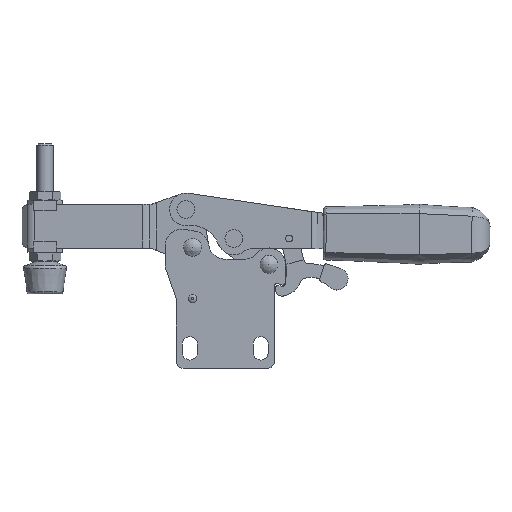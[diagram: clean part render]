
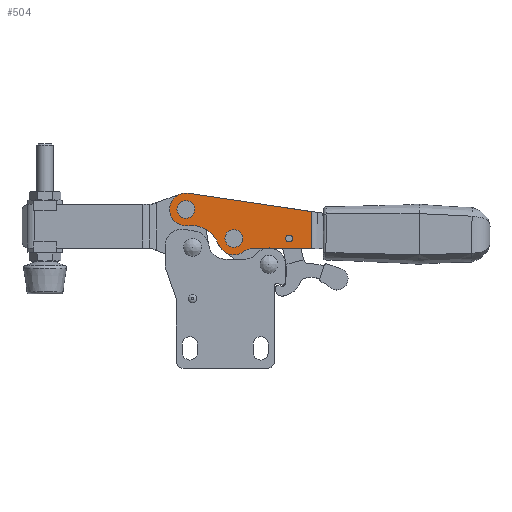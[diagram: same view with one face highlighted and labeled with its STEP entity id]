
A CAD part, top view. The second image highlights one B-rep face of the part: STEP entity #504.
In plain terms, the highlighted planar face has unit normal (0, 0, 1).
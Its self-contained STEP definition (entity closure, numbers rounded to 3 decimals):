
#504 = ADVANCED_FACE( '', ( #959, #960, #961, #962 ), #963, .T. );
#959 = FACE_OUTER_BOUND( '', #1722, .T. );
#960 = FACE_BOUND( '', #1723, .T. );
#961 = FACE_BOUND( '', #1724, .T. );
#962 = FACE_BOUND( '', #1725, .T. );
#963 = PLANE( '', #1726 );
#1722 = EDGE_LOOP( '', ( #3175, #3176, #3177, #3178, #3179, #3180, #3181 ) );
#1723 = EDGE_LOOP( '', ( #3182 ) );
#1724 = EDGE_LOOP( '', ( #3183 ) );
#1725 = EDGE_LOOP( '', ( #3184 ) );
#1726 = AXIS2_PLACEMENT_3D( '', #3185, #3186, #3187 );
#3175 = ORIENTED_EDGE( '', *, *, #4504, .F. );
#3176 = ORIENTED_EDGE( '', *, *, #4560, .T. );
#3177 = ORIENTED_EDGE( '', *, *, #4561, .T. );
#3178 = ORIENTED_EDGE( '', *, *, #4562, .F. );
#3179 = ORIENTED_EDGE( '', *, *, #4563, .T. );
#3180 = ORIENTED_EDGE( '', *, *, #4564, .F. );
#3181 = ORIENTED_EDGE( '', *, *, #4565, .T. );
#3182 = ORIENTED_EDGE( '', *, *, #4566, .F. );
#3183 = ORIENTED_EDGE( '', *, *, #4567, .F. );
#3184 = ORIENTED_EDGE( '', *, *, #4568, .F. );
#3185 = CARTESIAN_POINT( '', ( -2.455, 13.925, 5. ) );
#3186 = DIRECTION( '', ( 0., 0., 1. ) );
#3187 = DIRECTION( '', ( 1., 0., 0. ) );
#4504 = EDGE_CURVE( '', #5391, #5392, #5393, .F. );
#4560 = EDGE_CURVE( '', #5391, #5486, #5487, .T. );
#4561 = EDGE_CURVE( '', #5486, #5488, #5489, .T. );
#4562 = EDGE_CURVE( '', #5490, #5488, #5491, .T. );
#4563 = EDGE_CURVE( '', #5490, #5492, #5493, .T. );
#4564 = EDGE_CURVE( '', #5494, #5492, #5495, .T. );
#4565 = EDGE_CURVE( '', #5494, #5392, #5496, .T. );
#4566 = EDGE_CURVE( '', #5497, #5497, #5498, .T. );
#4567 = EDGE_CURVE( '', #5499, #5499, #5500, .T. );
#4568 = EDGE_CURVE( '', #5501, #5501, #5502, .T. );
#5391 = VERTEX_POINT( '', #6748 );
#5392 = VERTEX_POINT( '', #6749 );
#5393 = LINE( '', #6750, #6751 );
#5486 = VERTEX_POINT( '', #6896 );
#5487 = LINE( '', #6897, #6898 );
#5488 = VERTEX_POINT( '', #6899 );
#5489 = CIRCLE( '', #6900, 6. );
#5490 = VERTEX_POINT( '', #6901 );
#5491 = CIRCLE( '', #6902, 10.67 );
#5492 = VERTEX_POINT( '', #6903 );
#5493 = CIRCLE( '', #6904, 6. );
#5494 = VERTEX_POINT( '', #6905 );
#5495 = CIRCLE( '', #6906, 7. );
#5496 = LINE( '', #6907, #6908 );
#5497 = VERTEX_POINT( '', #6909 );
#5498 = CIRCLE( '', #6910, 3.25 );
#5499 = VERTEX_POINT( '', #6911 );
#5500 = CIRCLE( '', #6912, 3.25 );
#5501 = VERTEX_POINT( '', #6913 );
#5502 = CIRCLE( '', #6914, 1.25 );
#6748 = CARTESIAN_POINT( '', ( 43.771, 13.12, 5. ) );
#6749 = CARTESIAN_POINT( '', ( 43.637, -0.472, 5. ) );
#6750 = CARTESIAN_POINT( '', ( 43.389, -25.471, 5. ) );
#6751 = VECTOR( '', #8258, 1000. );
#6896 = CARTESIAN_POINT( '', ( -1.573, 19.86, 5. ) );
#6897 = CARTESIAN_POINT( '', ( 48.045, 12.485, 5. ) );
#6898 = VECTOR( '', #8364, 1000. );
#6899 = CARTESIAN_POINT( '', ( -1.744, 7.968, 5. ) );
#6900 = AXIS2_PLACEMENT_3D( '', #8365, #8366, #8367 );
#6901 = CARTESIAN_POINT( '', ( 9.5, 1.154, 5. ) );
#6902 = AXIS2_PLACEMENT_3D( '', #8368, #8369, #8370 );
#6903 = CARTESIAN_POINT( '', ( 18.62, -1.587, 5. ) );
#6904 = AXIS2_PLACEMENT_3D( '', #8371, #8372, #8373 );
#6905 = CARTESIAN_POINT( '', ( 22.783, -0.265, 5. ) );
#6906 = AXIS2_PLACEMENT_3D( '', #8374, #8375, #8376 );
#6907 = CARTESIAN_POINT( '', ( 22.783, -0.265, 5. ) );
#6908 = VECTOR( '', #8377, 1000. );
#6909 = CARTESIAN_POINT( '', ( 0.795, 13.925, 5. ) );
#6910 = AXIS2_PLACEMENT_3D( '', #8378, #8379, #8380 );
#6911 = CARTESIAN_POINT( '', ( 18.361, 3.28, 5. ) );
#6912 = AXIS2_PLACEMENT_3D( '', #8381, #8382, #8383 );
#6913 = CARTESIAN_POINT( '', ( 36.636, 3.27, 5. ) );
#6914 = AXIS2_PLACEMENT_3D( '', #8384, #8385, #8386 );
#8258 = DIRECTION( '', ( 0.01, 1., 0. ) );
#8364 = DIRECTION( '', ( -0.989, 0.147, 0. ) );
#8365 = CARTESIAN_POINT( '', ( -2.455, 13.925, 5. ) );
#8366 = DIRECTION( '', ( 0., 0., 1. ) );
#8367 = DIRECTION( '', ( 1., 0., 0. ) );
#8368 = CARTESIAN_POINT( '', ( -0.478, -2.627, 5. ) );
#8369 = DIRECTION( '', ( 0., 0., 1. ) );
#8370 = DIRECTION( '', ( 1., 0., 0. ) );
#8371 = CARTESIAN_POINT( '', ( 15.111, 3.28, 5. ) );
#8372 = DIRECTION( '', ( 0., 0., 1. ) );
#8373 = DIRECTION( '', ( 1., 0., 0. ) );
#8374 = CARTESIAN_POINT( '', ( 22.714, -7.265, 5. ) );
#8375 = DIRECTION( '', ( 0., 0., 1. ) );
#8376 = DIRECTION( '', ( 1., 0., 0. ) );
#8377 = DIRECTION( '', ( 1., -0.01, 0. ) );
#8378 = CARTESIAN_POINT( '', ( -2.455, 13.925, 5. ) );
#8379 = DIRECTION( '', ( 0., 0., 1. ) );
#8380 = DIRECTION( '', ( 1., 0., 0. ) );
#8381 = CARTESIAN_POINT( '', ( 15.111, 3.28, 5. ) );
#8382 = DIRECTION( '', ( 0., 0., 1. ) );
#8383 = DIRECTION( '', ( 1., 0., 0. ) );
#8384 = CARTESIAN_POINT( '', ( 35.386, 3.27, 5. ) );
#8385 = DIRECTION( '', ( 0., 0., 1. ) );
#8386 = DIRECTION( '', ( 1., 0., 0. ) );
